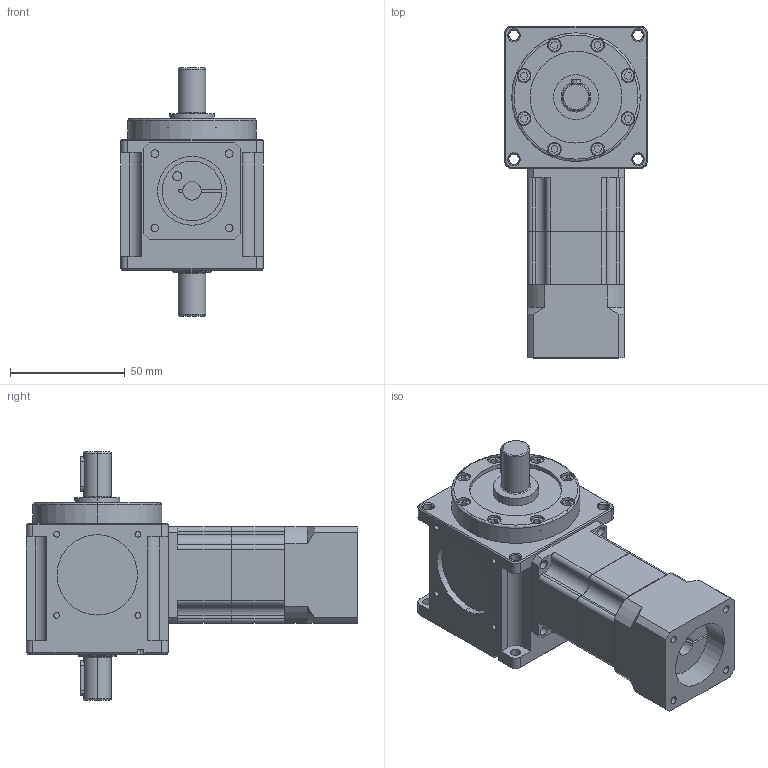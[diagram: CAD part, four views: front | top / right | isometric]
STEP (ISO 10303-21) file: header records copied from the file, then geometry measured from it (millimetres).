
FILE_DESCRIPTION (( 'STEP AP214' ), '1' );
FILE_NAME ('CCW062A-L2(24-100)-2P 8-30-46-M4.STEP', '2025-06-02T08:44:52', ( '微软用户' ), ( '微软中国' ), 'SwSTEP 2.0', 'SolidWorks 2024', '' );
FILE_SCHEMA (( 'AUTOMOTIVE_DESIGN' ));
Length unit declared in the file: millimetre
Products named in the file (3): CCW062A-L2(24-100)-2P 8-30-46-M4; 042-L2齿圈; CCW062A-002-2P箱体
Assembly tree (2 placements, depth 2):
  CCW062A-L2(24-100)-2P 8-30-46-M4
    CCW062A-002-2P箱体
    042-L2齿圈
Bounding box: 62 x 144.5 x 108 mm (x, y, z)
Volume: 337009.5 mm3; surface area: 50257.2 mm2
Topology: 2 solids, 2 shells, 512 faces, 1212 edges, 756 vertices
Faces by surface type: plane 240, cylinder 186, cone 72, torus 14
Entity records: 15038 total; most frequent: CARTESIAN_POINT 2783, DIRECTION 2684, ORIENTED_EDGE 2424, EDGE_CURVE 1212, AXIS2_PLACEMENT_3D 997, VERTEX_POINT 756, VECTOR 690, LINE 690
